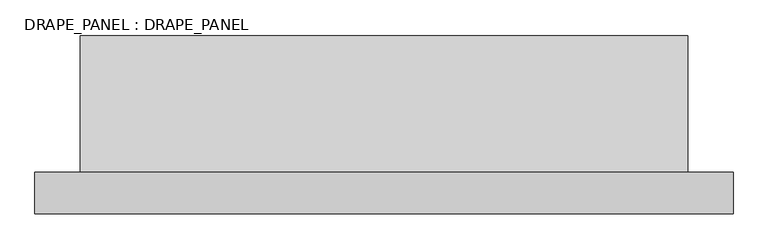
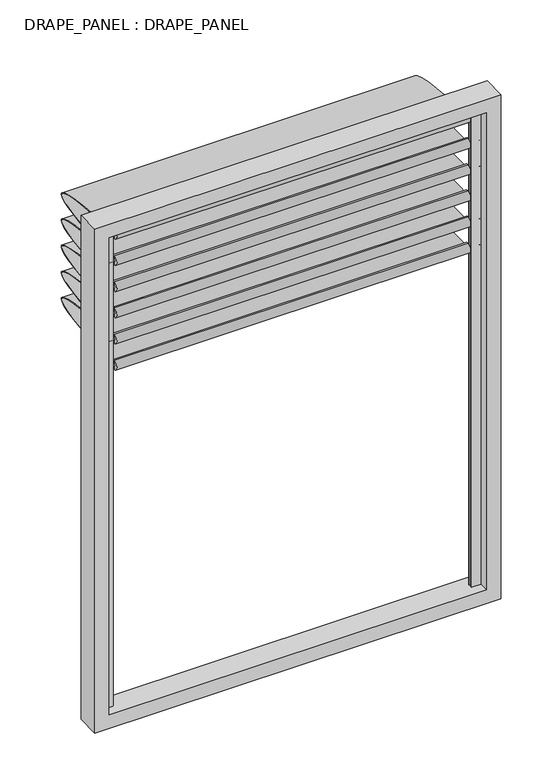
"""IFC4 building model written with IfcOpenShell, lengths in millimetres: plate geometry, DRAPE_PANEL : DRAPE_PANEL."""

from ifc_helpers import new_model, si_unit, point, frame, origin, place, context, project, spatial, polyline, circle_curve, ellipse_curve, trimmed, outline, extrude, source, transform, mapped, element, save
from ifc_brep_helpers import plane_surface, cylinder_surface, extruded_surface, advanced_brep


def drape_panel_drape_panel_741b7121(model_context):
    return source(origin(), model_context, "Body", "SolidModel", [
        advanced_brep(
        [(-790.0, 0.0, 1791.5019792), (-790.0, 0.0, 1796.5019792), (-790.0, 0.0, 1786.5019792), (790.0, 0.0, 1786.5019792), (790.0, 0.0, 1796.5019792), (790.0, 0.0, 1791.5019792), (740.0, 0.0, 1786.5019792), (740.0, 0.0, 1796.5019792), (740.0, 0.0, 1771.5019792), (740.0, 0.0, 1811.5019792), (-740.0, 0.0, 1771.5019792), (-740.0, 0.0, 1811.5019792), (-740.0, 0.0, 1786.5019792), (-740.0, 0.0, 1796.5019792)],
        [
            (0, 1),
            (1, 2, circle_curve(frame((-790.0, 0.0, 1791.5019792), z_axis=(-1.0, 0.0, 0.0), x_axis=(0.0, 0.0, 1.0)), 5.0)),
            (2, 0),
            (2, 1, circle_curve(frame((-790.0, 0.0, 1791.5019792), z_axis=(-1.0, 0.0, 0.0), x_axis=(0.0, 0.0, 1.0)), 5.0)),
            (3, 4, circle_curve(frame((790.0, 0.0, 1791.5019792), z_axis=(1.0, 0.0, 0.0), x_axis=(0.0, 0.0, 1.0)), 5.0)),
            (4, 5),
            (5, 3),
            (4, 3, circle_curve(frame((790.0, 0.0, 1791.5019792), z_axis=(1.0, 0.0, 0.0), x_axis=(0.0, 0.0, 1.0)), 5.0)),
            (6, 7, circle_curve(frame((740.0, 0.0, 1791.5019792), z_axis=(1.0, 0.0, 0.0), x_axis=(0.0, 0.0, 1.0)), 5.0)),
            (7, 4),
            (3, 6),
            (7, 6, circle_curve(frame((740.0, 0.0, 1791.5019792), z_axis=(1.0, 0.0, 0.0), x_axis=(0.0, 0.0, 1.0)), 5.0)),
            (8, 9, circle_curve(frame((740.0, 0.0, 1791.5019792), z_axis=(1.0, 0.0, 0.0), x_axis=(0.0, 0.0, 1.0)), 20.0)),
            (9, 7),
            (6, 8),
            (9, 8, circle_curve(frame((740.0, 0.0, 1791.5019792), z_axis=(1.0, 0.0, 0.0), x_axis=(0.0, 0.0, 1.0)), 20.0)),
            (10, 11, circle_curve(frame((-740.0, 0.0, 1791.5019792), z_axis=(1.0, 0.0, 0.0), x_axis=(0.0, 0.0, 1.0)), 20.0)),
            (11, 9),
            (8, 10),
            (11, 10, circle_curve(frame((-740.0, 0.0, 1791.5019792), z_axis=(1.0, 0.0, 0.0), x_axis=(0.0, 0.0, 1.0)), 20.0)),
            (12, 13, circle_curve(frame((-740.0, 0.0, 1791.5019792), z_axis=(1.0, 0.0, 0.0), x_axis=(0.0, 0.0, 1.0)), 5.0)),
            (13, 11),
            (10, 12),
            (13, 12, circle_curve(frame((-740.0, 0.0, 1791.5019792), z_axis=(1.0, 0.0, 0.0), x_axis=(0.0, 0.0, 1.0)), 5.0)),
            (1, 13),
            (12, 2),
        ],
        [
            plane_surface(frame((-790.0, 0.0, 1791.5019792), z_axis=(-1.0, 0.0, 0.0), x_axis=(0.0, 0.0, 1.0))),
            plane_surface(frame((790.0, 0.0, 1791.5019792), z_axis=(1.0, 0.0, 0.0), x_axis=(0.0, 0.0, 1.0))),
            cylinder_surface(frame((6238.8752301, 0.0, 1791.5019792), z_axis=(-1.0, 0.0, 0.0), x_axis=(0.0, 0.0, 1.0)), 5.0),
            plane_surface(frame((740.0, 0.0, 1791.5019792), z_axis=(1.0, 0.0, 0.0), x_axis=(0.0, 0.0, 1.0))),
            cylinder_surface(frame((6238.8752301, 0.0, 1791.5019792), z_axis=(-1.0, 0.0, 0.0), x_axis=(0.0, 0.0, 1.0)), 20.0),
            plane_surface(frame((-740.0, 0.0, 1791.5019792), z_axis=(-1.0, 0.0, 0.0), x_axis=(0.0, 0.0, 1.0))),
        ],
        [
            (0, [[1, 2, 3]]),
            (0, [[-3, 4, -1]]),
            (1, [[5, 6, 7]]),
            (1, [[8, -7, -6]]),
            (2, [[9, 10, -5, 11]]),
            (2, [[12, -11, -8, -10]]),
            (3, [[13, 14, -9, 15]]),
            (3, [[16, -15, -12, -14]]),
            (4, [[17, 18, -13, 19]]),
            (4, [[20, -19, -16, -18]]),
            (5, [[21, 22, -17, 23]]),
            (5, [[24, -23, -20, -22]]),
            (2, [[-2, 25, -21, 26]]),
            (2, [[-4, -26, -24, -25]]),
        ],
    ),
        advanced_brep(
        [(740.0, 0.0, 1791.5019792), (740.0, 0.0, 1788.5019792), (740.0, 0.0, 1678.7509896), (740.0, 0.0, 1675.7509896), (-740.0, 0.0, 1791.5019792), (-740.0, 0.0, 1675.7509896), (-740.0, 0.0, 1678.7509896), (-740.0, 0.0, 1788.5019792)],
        [
            (0, 1),
            (1, 2, ellipse_curve(frame((740.0, 0.0, 1733.6264844), z_axis=(-1.0, 0.0, 0.0), x_axis=(0.0, -1.0, 0.0)), 381.9935471, 54.8754948)),
            (2, 3),
            (3, 0, ellipse_curve(frame((740.0, 0.0, 1733.6264844), z_axis=(1.0, 0.0, 0.0), x_axis=(0.0, 1.0, 0.0)), 384.9935471, 57.8754948)),
            (4, 5, ellipse_curve(frame((-740.0, 0.0, 1733.6264844), z_axis=(-1.0, 0.0, 0.0), x_axis=(0.0, 0.0, -1.0)), 57.8754948, 384.9935471)),
            (5, 6),
            (6, 7, ellipse_curve(frame((-740.0, 0.0, 1733.6264844), z_axis=(1.0, 0.0, 0.0), x_axis=(0.0, 0.0, -1.0)), 54.8754948, 381.9935471)),
            (7, 4),
            (0, 4),
            (7, 1),
            (6, 2),
            (5, 3),
        ],
        [
            plane_surface(frame((740.0, 0.0, 1791.5019792), z_axis=(1.0, 0.0, 0.0), x_axis=(0.0, -2.950925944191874e-12, -1.0))),
            plane_surface(frame((-740.0, 0.0, 1791.5019792), z_axis=(-1.0, 0.0, 0.0), x_axis=(0.0, 2.950925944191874e-12, 1.0))),
            plane_surface(frame((740.0, 0.0, 1791.5019792), z_axis=(0.0, -1.0, 2.950925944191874e-12), x_axis=(-1.0, 0.0, 0.0))),
            extruded_surface(trimmed(ellipse_curve(frame((-2220.0, 0.0, 1733.6264844), z_axis=(-1.0, 0.0, 0.0), x_axis=(0.0, 0.0, -1.0)), 54.8754948, 381.9935471), [point((-2220.0, 0.0, 1788.5019792))], [point((-2220.0, 0.0, 1678.7509896))], True, "CARTESIAN"), (1480.0, 0.0, 0.0), 1480.0),
            plane_surface(frame((740.0, 0.0, 1678.7509896), z_axis=(0.0, -1.0, 0.0), x_axis=(-1.0, 0.0, 0.0))),
            extruded_surface(trimmed(ellipse_curve(frame((-2220.0, 0.0, 1733.6264844), z_axis=(1.0, 0.0, 0.0), x_axis=(0.0, 0.0, -1.0)), 57.8754948, 384.9935471), [point((-2220.0, 0.0, 1675.7509896))], [point((-2220.0, 0.0, 1791.5019792))], True, "CARTESIAN"), (1480.0, 0.0, 0.0), 1480.0),
        ],
        [
            (0, [[1, 2, 3, 4]]),
            (1, [[5, 6, 7, 8]]),
            (2, [[-1, 9, -8, 10]]),
            (3, [[-2, -10, -7, 11]]),
            (4, [[-3, -11, -6, 12]]),
            (5, [[-4, -12, -5, -9]]),
        ],
    ),
        advanced_brep(
        [(-790.0, 0.0, 1907.2529688), (-790.0, 0.0, 1912.2529688), (-790.0, 0.0, 1902.2529688), (790.0, 0.0, 1902.2529688), (790.0, 0.0, 1912.2529688), (790.0, 0.0, 1907.2529688), (740.0, 0.0, 1902.2529688), (740.0, 0.0, 1912.2529688), (740.0, 0.0, 1887.2529688), (740.0, 0.0, 1927.2529688), (-740.0, 0.0, 1887.2529688), (-740.0, 0.0, 1927.2529688), (-740.0, 0.0, 1902.2529688), (-740.0, 0.0, 1912.2529688)],
        [
            (0, 1),
            (1, 2, circle_curve(frame((-790.0, 0.0, 1907.2529688), z_axis=(-1.0, 0.0, 0.0), x_axis=(0.0, 0.0, 1.0)), 5.0)),
            (2, 0),
            (2, 1, circle_curve(frame((-790.0, 0.0, 1907.2529688), z_axis=(-1.0, 0.0, 0.0), x_axis=(0.0, 0.0, 1.0)), 5.0)),
            (3, 4, circle_curve(frame((790.0, 0.0, 1907.2529688), z_axis=(1.0, 0.0, 0.0), x_axis=(0.0, 0.0, 1.0)), 5.0)),
            (4, 5),
            (5, 3),
            (4, 3, circle_curve(frame((790.0, 0.0, 1907.2529688), z_axis=(1.0, 0.0, 0.0), x_axis=(0.0, 0.0, 1.0)), 5.0)),
            (6, 7, circle_curve(frame((740.0, 0.0, 1907.2529688), z_axis=(1.0, 0.0, 0.0), x_axis=(0.0, 0.0, 1.0)), 5.0)),
            (7, 4),
            (3, 6),
            (7, 6, circle_curve(frame((740.0, 0.0, 1907.2529688), z_axis=(1.0, 0.0, 0.0), x_axis=(0.0, 0.0, 1.0)), 5.0)),
            (8, 9, circle_curve(frame((740.0, 0.0, 1907.2529688), z_axis=(1.0, 0.0, 0.0), x_axis=(0.0, 0.0, 1.0)), 20.0)),
            (9, 7),
            (6, 8),
            (9, 8, circle_curve(frame((740.0, 0.0, 1907.2529688), z_axis=(1.0, 0.0, 0.0), x_axis=(0.0, 0.0, 1.0)), 20.0)),
            (10, 11, circle_curve(frame((-740.0, 0.0, 1907.2529688), z_axis=(1.0, 0.0, 0.0), x_axis=(0.0, 0.0, 1.0)), 20.0)),
            (11, 9),
            (8, 10),
            (11, 10, circle_curve(frame((-740.0, 0.0, 1907.2529688), z_axis=(1.0, 0.0, 0.0), x_axis=(0.0, 0.0, 1.0)), 20.0)),
            (12, 13, circle_curve(frame((-740.0, 0.0, 1907.2529688), z_axis=(1.0, 0.0, 0.0), x_axis=(0.0, 0.0, 1.0)), 5.0)),
            (13, 11),
            (10, 12),
            (13, 12, circle_curve(frame((-740.0, 0.0, 1907.2529688), z_axis=(1.0, 0.0, 0.0), x_axis=(0.0, 0.0, 1.0)), 5.0)),
            (1, 13),
            (12, 2),
        ],
        [
            plane_surface(frame((-790.0, 0.0, 1907.2529688), z_axis=(-1.0, 0.0, 0.0), x_axis=(0.0, 0.0, 1.0))),
            plane_surface(frame((790.0, 0.0, 1907.2529688), z_axis=(1.0, 0.0, 0.0), x_axis=(0.0, 0.0, 1.0))),
            cylinder_surface(frame((6238.8752301, 0.0, 1907.2529688), z_axis=(-1.0, 0.0, 0.0), x_axis=(0.0, 0.0, 1.0)), 5.0),
            plane_surface(frame((740.0, 0.0, 1907.2529688), z_axis=(1.0, 0.0, 0.0), x_axis=(0.0, 0.0, 1.0))),
            cylinder_surface(frame((6238.8752301, 0.0, 1907.2529688), z_axis=(-1.0, 0.0, 0.0), x_axis=(0.0, 0.0, 1.0)), 20.0),
            plane_surface(frame((-740.0, 0.0, 1907.2529688), z_axis=(-1.0, 0.0, 0.0), x_axis=(0.0, 0.0, 1.0))),
        ],
        [
            (0, [[1, 2, 3]]),
            (0, [[-3, 4, -1]]),
            (1, [[5, 6, 7]]),
            (1, [[8, -7, -6]]),
            (2, [[9, 10, -5, 11]]),
            (2, [[12, -11, -8, -10]]),
            (3, [[13, 14, -9, 15]]),
            (3, [[16, -15, -12, -14]]),
            (4, [[17, 18, -13, 19]]),
            (4, [[20, -19, -16, -18]]),
            (5, [[21, 22, -17, 23]]),
            (5, [[24, -23, -20, -22]]),
            (2, [[-2, 25, -21, 26]]),
            (2, [[-4, -26, -24, -25]]),
        ],
    ),
        advanced_brep(
        [(740.0, 0.0, 1907.2529688), (740.0, 0.0, 1904.2529688), (740.0, 0.0, 1794.5019792), (740.0, 0.0, 1791.5019792), (-740.0, 0.0, 1907.2529688), (-740.0, 0.0, 1791.5019792), (-740.0, 0.0, 1794.5019792), (-740.0, 0.0, 1904.2529688)],
        [
            (0, 1),
            (1, 2, ellipse_curve(frame((740.0, 0.0, 1849.377474), z_axis=(-1.0, 0.0, 0.0), x_axis=(0.0, -1.0, 0.0)), 381.9935471, 54.8754948)),
            (2, 3),
            (3, 0, ellipse_curve(frame((740.0, 0.0, 1849.377474), z_axis=(1.0, 0.0, 0.0), x_axis=(0.0, 1.0, 0.0)), 384.9935471, 57.8754948)),
            (4, 5, ellipse_curve(frame((-740.0, 0.0, 1849.377474), z_axis=(-1.0, 0.0, 0.0), x_axis=(0.0, 0.0, -1.0)), 57.8754948, 384.9935471)),
            (5, 6),
            (6, 7, ellipse_curve(frame((-740.0, 0.0, 1849.377474), z_axis=(1.0, 0.0, 0.0), x_axis=(0.0, 0.0, -1.0)), 54.8754948, 381.9935471)),
            (7, 4),
            (0, 4),
            (7, 1),
            (6, 2),
            (5, 3),
        ],
        [
            plane_surface(frame((740.0, 0.0, 1907.2529688), z_axis=(1.0, 0.0, 0.0), x_axis=(0.0, -2.950925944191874e-12, -1.0))),
            plane_surface(frame((-740.0, 0.0, 1907.2529688), z_axis=(-1.0, 0.0, 0.0), x_axis=(0.0, 2.950925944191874e-12, 1.0))),
            plane_surface(frame((740.0, 0.0, 1907.2529688), z_axis=(0.0, -1.0, 2.950925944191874e-12), x_axis=(-1.0, 0.0, 0.0))),
            extruded_surface(trimmed(ellipse_curve(frame((-2220.0, 0.0, 1849.377474), z_axis=(-1.0, 0.0, 0.0), x_axis=(0.0, 0.0, -1.0)), 54.8754948, 381.9935471), [point((-2220.0, 0.0, 1904.2529688))], [point((-2220.0, 0.0, 1794.5019792))], True, "CARTESIAN"), (1480.0, 0.0, 0.0), 1480.0),
            plane_surface(frame((740.0, 0.0, 1794.5019792), z_axis=(0.0, -1.0, 0.0), x_axis=(-1.0, 0.0, 0.0))),
            extruded_surface(trimmed(ellipse_curve(frame((-2220.0, 0.0, 1849.377474), z_axis=(1.0, 0.0, 0.0), x_axis=(0.0, 0.0, -1.0)), 57.8754948, 384.9935471), [point((-2220.0, 0.0, 1791.5019792))], [point((-2220.0, 0.0, 1907.2529688))], True, "CARTESIAN"), (1480.0, 0.0, 0.0), 1480.0),
        ],
        [
            (0, [[1, 2, 3, 4]]),
            (1, [[5, 6, 7, 8]]),
            (2, [[-1, 9, -8, 10]]),
            (3, [[-2, -10, -7, 11]]),
            (4, [[-3, -11, -6, 12]]),
            (5, [[-4, -12, -5, -9]]),
        ],
    ),
        advanced_brep(
        [(-790.0, 0.0, 2023.0039583), (-790.0, 0.0, 2028.0039583), (-790.0, 0.0, 2018.0039583), (790.0, 0.0, 2018.0039583), (790.0, 0.0, 2028.0039583), (790.0, 0.0, 2023.0039583), (740.0, 0.0, 2018.0039583), (740.0, 0.0, 2028.0039583), (740.0, 0.0, 2003.0039583), (740.0, 0.0, 2043.0039583), (-740.0, 0.0, 2003.0039583), (-740.0, 0.0, 2043.0039583), (-740.0, 0.0, 2018.0039583), (-740.0, 0.0, 2028.0039583)],
        [
            (0, 1),
            (1, 2, circle_curve(frame((-790.0, 0.0, 2023.0039583), z_axis=(-1.0, 0.0, 0.0), x_axis=(0.0, 0.0, 1.0)), 5.0)),
            (2, 0),
            (2, 1, circle_curve(frame((-790.0, 0.0, 2023.0039583), z_axis=(-1.0, 0.0, 0.0), x_axis=(0.0, 0.0, 1.0)), 5.0)),
            (3, 4, circle_curve(frame((790.0, 0.0, 2023.0039583), z_axis=(1.0, 0.0, 0.0), x_axis=(0.0, 0.0, 1.0)), 5.0)),
            (4, 5),
            (5, 3),
            (4, 3, circle_curve(frame((790.0, 0.0, 2023.0039583), z_axis=(1.0, 0.0, 0.0), x_axis=(0.0, 0.0, 1.0)), 5.0)),
            (6, 7, circle_curve(frame((740.0, 0.0, 2023.0039583), z_axis=(1.0, 0.0, 0.0), x_axis=(0.0, 0.0, 1.0)), 5.0)),
            (7, 4),
            (3, 6),
            (7, 6, circle_curve(frame((740.0, 0.0, 2023.0039583), z_axis=(1.0, 0.0, 0.0), x_axis=(0.0, 0.0, 1.0)), 5.0)),
            (8, 9, circle_curve(frame((740.0, 0.0, 2023.0039583), z_axis=(1.0, 0.0, 0.0), x_axis=(0.0, 0.0, 1.0)), 20.0)),
            (9, 7),
            (6, 8),
            (9, 8, circle_curve(frame((740.0, 0.0, 2023.0039583), z_axis=(1.0, 0.0, 0.0), x_axis=(0.0, 0.0, 1.0)), 20.0)),
            (10, 11, circle_curve(frame((-740.0, 0.0, 2023.0039583), z_axis=(1.0, 0.0, 0.0), x_axis=(0.0, 0.0, 1.0)), 20.0)),
            (11, 9),
            (8, 10),
            (11, 10, circle_curve(frame((-740.0, 0.0, 2023.0039583), z_axis=(1.0, 0.0, 0.0), x_axis=(0.0, 0.0, 1.0)), 20.0)),
            (12, 13, circle_curve(frame((-740.0, 0.0, 2023.0039583), z_axis=(1.0, 0.0, 0.0), x_axis=(0.0, 0.0, 1.0)), 5.0)),
            (13, 11),
            (10, 12),
            (13, 12, circle_curve(frame((-740.0, 0.0, 2023.0039583), z_axis=(1.0, 0.0, 0.0), x_axis=(0.0, 0.0, 1.0)), 5.0)),
            (1, 13),
            (12, 2),
        ],
        [
            plane_surface(frame((-790.0, 0.0, 2023.0039583), z_axis=(-1.0, 0.0, 0.0), x_axis=(0.0, 0.0, 1.0))),
            plane_surface(frame((790.0, 0.0, 2023.0039583), z_axis=(1.0, 0.0, 0.0), x_axis=(0.0, 0.0, 1.0))),
            cylinder_surface(frame((6238.8752301, 0.0, 2023.0039583), z_axis=(-1.0, 0.0, 0.0), x_axis=(0.0, 0.0, 1.0)), 5.0),
            plane_surface(frame((740.0, 0.0, 2023.0039583), z_axis=(1.0, 0.0, 0.0), x_axis=(0.0, 0.0, 1.0))),
            cylinder_surface(frame((6238.8752301, 0.0, 2023.0039583), z_axis=(-1.0, 0.0, 0.0), x_axis=(0.0, 0.0, 1.0)), 20.0),
            plane_surface(frame((-740.0, 0.0, 2023.0039583), z_axis=(-1.0, 0.0, 0.0), x_axis=(0.0, 0.0, 1.0))),
        ],
        [
            (0, [[1, 2, 3]]),
            (0, [[-3, 4, -1]]),
            (1, [[5, 6, 7]]),
            (1, [[8, -7, -6]]),
            (2, [[9, 10, -5, 11]]),
            (2, [[12, -11, -8, -10]]),
            (3, [[13, 14, -9, 15]]),
            (3, [[16, -15, -12, -14]]),
            (4, [[17, 18, -13, 19]]),
            (4, [[20, -19, -16, -18]]),
            (5, [[21, 22, -17, 23]]),
            (5, [[24, -23, -20, -22]]),
            (2, [[-2, 25, -21, 26]]),
            (2, [[-4, -26, -24, -25]]),
        ],
    ),
        advanced_brep(
        [(740.0, 0.0, 2023.0039583), (740.0, 0.0, 2020.0039583), (740.0, 0.0, 1910.2529688), (740.0, 0.0, 1907.2529688), (-740.0, 0.0, 2023.0039583), (-740.0, 0.0, 1907.2529688), (-740.0, 0.0, 1910.2529688), (-740.0, 0.0, 2020.0039583)],
        [
            (0, 1),
            (1, 2, ellipse_curve(frame((740.0, 0.0, 1965.1284635), z_axis=(-1.0, 0.0, 0.0), x_axis=(0.0, -1.0, 0.0)), 381.9935471, 54.8754948)),
            (2, 3),
            (3, 0, ellipse_curve(frame((740.0, 0.0, 1965.1284635), z_axis=(1.0, 0.0, 0.0), x_axis=(0.0, 1.0, 0.0)), 384.9935471, 57.8754948)),
            (4, 5, ellipse_curve(frame((-740.0, 0.0, 1965.1284635), z_axis=(-1.0, 0.0, 0.0), x_axis=(0.0, 0.0, -1.0)), 57.8754948, 384.9935471)),
            (5, 6),
            (6, 7, ellipse_curve(frame((-740.0, 0.0, 1965.1284635), z_axis=(1.0, 0.0, 0.0), x_axis=(0.0, 0.0, -1.0)), 54.8754948, 381.9935471)),
            (7, 4),
            (0, 4),
            (7, 1),
            (6, 2),
            (5, 3),
        ],
        [
            plane_surface(frame((740.0, 0.0, 2023.0039583), z_axis=(1.0, 0.0, 0.0), x_axis=(0.0, -2.950925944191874e-12, -1.0))),
            plane_surface(frame((-740.0, 0.0, 2023.0039583), z_axis=(-1.0, 0.0, 0.0), x_axis=(0.0, 2.950925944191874e-12, 1.0))),
            plane_surface(frame((740.0, 0.0, 2023.0039583), z_axis=(0.0, -1.0, 2.950925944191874e-12), x_axis=(-1.0, 0.0, 0.0))),
            extruded_surface(trimmed(ellipse_curve(frame((-2220.0, 0.0, 1965.1284635), z_axis=(-1.0, 0.0, 0.0), x_axis=(0.0, 0.0, -1.0)), 54.8754948, 381.9935471), [point((-2220.0, 0.0, 2020.0039583))], [point((-2220.0, 0.0, 1910.2529687))], True, "CARTESIAN"), (1480.0, 0.0, 0.0), 1480.0),
            plane_surface(frame((740.0, 0.0, 1910.2529688), z_axis=(0.0, -1.0, 0.0), x_axis=(-1.0, 0.0, 0.0))),
            extruded_surface(trimmed(ellipse_curve(frame((-2220.0, 0.0, 1965.1284635), z_axis=(1.0, 0.0, 0.0), x_axis=(0.0, 0.0, -1.0)), 57.8754948, 384.9935471), [point((-2220.0, 0.0, 1907.2529688))], [point((-2220.0, 0.0, 2023.0039583))], True, "CARTESIAN"), (1480.0, 0.0, 0.0), 1480.0),
        ],
        [
            (0, [[1, 2, 3, 4]]),
            (1, [[5, 6, 7, 8]]),
            (2, [[-1, 9, -8, 10]]),
            (3, [[-2, -10, -7, 11]]),
            (4, [[-3, -11, -6, 12]]),
            (5, [[-4, -12, -5, -9]]),
        ],
    ),
        advanced_brep(
        [(-790.0, 0.0, 1675.7509896), (-790.0, 0.0, 1680.7509896), (-790.0, 0.0, 1670.7509896), (790.0, 0.0, 1670.7509896), (790.0, 0.0, 1680.7509896), (790.0, 0.0, 1675.7509896), (740.0, 0.0, 1670.7509896), (740.0, 0.0, 1680.7509896), (740.0, 0.0, 1655.7509896), (740.0, 0.0, 1695.7509896), (-740.0, 0.0, 1655.7509896), (-740.0, 0.0, 1695.7509896), (-740.0, 0.0, 1670.7509896), (-740.0, 0.0, 1680.7509896)],
        [
            (0, 1),
            (1, 2, circle_curve(frame((-790.0, 0.0, 1675.7509896), z_axis=(-1.0, 0.0, 0.0), x_axis=(0.0, 0.0, 1.0)), 5.0)),
            (2, 0),
            (2, 1, circle_curve(frame((-790.0, 0.0, 1675.7509896), z_axis=(-1.0, 0.0, 0.0), x_axis=(0.0, 0.0, 1.0)), 5.0)),
            (3, 4, circle_curve(frame((790.0, 0.0, 1675.7509896), z_axis=(1.0, 0.0, 0.0), x_axis=(0.0, 0.0, 1.0)), 5.0)),
            (4, 5),
            (5, 3),
            (4, 3, circle_curve(frame((790.0, 0.0, 1675.7509896), z_axis=(1.0, 0.0, 0.0), x_axis=(0.0, 0.0, 1.0)), 5.0)),
            (6, 7, circle_curve(frame((740.0, 0.0, 1675.7509896), z_axis=(1.0, 0.0, 0.0), x_axis=(0.0, 0.0, 1.0)), 5.0)),
            (7, 4),
            (3, 6),
            (7, 6, circle_curve(frame((740.0, 0.0, 1675.7509896), z_axis=(1.0, 0.0, 0.0), x_axis=(0.0, 0.0, 1.0)), 5.0)),
            (8, 9, circle_curve(frame((740.0, 0.0, 1675.7509896), z_axis=(1.0, 0.0, 0.0), x_axis=(0.0, 0.0, 1.0)), 20.0)),
            (9, 7),
            (6, 8),
            (9, 8, circle_curve(frame((740.0, 0.0, 1675.7509896), z_axis=(1.0, 0.0, 0.0), x_axis=(0.0, 0.0, 1.0)), 20.0)),
            (10, 11, circle_curve(frame((-740.0, 0.0, 1675.7509896), z_axis=(1.0, 0.0, 0.0), x_axis=(0.0, 0.0, 1.0)), 20.0)),
            (11, 9),
            (8, 10),
            (11, 10, circle_curve(frame((-740.0, 0.0, 1675.7509896), z_axis=(1.0, 0.0, 0.0), x_axis=(0.0, 0.0, 1.0)), 20.0)),
            (12, 13, circle_curve(frame((-740.0, 0.0, 1675.7509896), z_axis=(1.0, 0.0, 0.0), x_axis=(0.0, 0.0, 1.0)), 5.0)),
            (13, 11),
            (10, 12),
            (13, 12, circle_curve(frame((-740.0, 0.0, 1675.7509896), z_axis=(1.0, 0.0, 0.0), x_axis=(0.0, 0.0, 1.0)), 5.0)),
            (1, 13),
            (12, 2),
        ],
        [
            plane_surface(frame((-790.0, 0.0, 1675.7509896), z_axis=(-1.0, 0.0, 0.0), x_axis=(0.0, 0.0, 1.0))),
            plane_surface(frame((790.0, 0.0, 1675.7509896), z_axis=(1.0, 0.0, 0.0), x_axis=(0.0, 0.0, 1.0))),
            cylinder_surface(frame((6238.8752301, 0.0, 1675.7509896), z_axis=(-1.0, 0.0, 0.0), x_axis=(0.0, 0.0, 1.0)), 5.0),
            plane_surface(frame((740.0, 0.0, 1675.7509896), z_axis=(1.0, 0.0, 0.0), x_axis=(0.0, 0.0, 1.0))),
            cylinder_surface(frame((6238.8752301, 0.0, 1675.7509896), z_axis=(-1.0, 0.0, 0.0), x_axis=(0.0, 0.0, 1.0)), 20.0),
            plane_surface(frame((-740.0, 0.0, 1675.7509896), z_axis=(-1.0, 0.0, 0.0), x_axis=(0.0, 0.0, 1.0))),
        ],
        [
            (0, [[1, 2, 3]]),
            (0, [[-3, 4, -1]]),
            (1, [[5, 6, 7]]),
            (1, [[8, -7, -6]]),
            (2, [[9, 10, -5, 11]]),
            (2, [[12, -11, -8, -10]]),
            (3, [[13, 14, -9, 15]]),
            (3, [[16, -15, -12, -14]]),
            (4, [[17, 18, -13, 19]]),
            (4, [[20, -19, -16, -18]]),
            (5, [[21, 22, -17, 23]]),
            (5, [[24, -23, -20, -22]]),
            (2, [[-2, 25, -21, 26]]),
            (2, [[-4, -26, -24, -25]]),
        ],
    ),
        advanced_brep(
        [(740.0, 0.0, 1675.7509896), (740.0, 0.0, 1672.7509896), (740.0, 0.0, 1563.0), (740.0, 0.0, 1560.0), (-740.0, 0.0, 1675.7509896), (-740.0, 0.0, 1560.0), (-740.0, 0.0, 1563.0), (-740.0, 0.0, 1672.7509896)],
        [
            (0, 1),
            (1, 2, ellipse_curve(frame((740.0, 0.0, 1617.8754948), z_axis=(-1.0, 0.0, 0.0), x_axis=(0.0, -1.0, 0.0)), 381.9935471, 54.8754948)),
            (2, 3),
            (3, 0, ellipse_curve(frame((740.0, 0.0, 1617.8754948), z_axis=(1.0, 0.0, 0.0), x_axis=(0.0, 1.0, 0.0)), 384.9935471, 57.8754948)),
            (4, 5, ellipse_curve(frame((-740.0, 0.0, 1617.8754948), z_axis=(-1.0, 0.0, 0.0), x_axis=(0.0, 0.0, -1.0)), 57.8754948, 384.9935471)),
            (5, 6),
            (6, 7, ellipse_curve(frame((-740.0, 0.0, 1617.8754948), z_axis=(1.0, 0.0, 0.0), x_axis=(0.0, 0.0, -1.0)), 54.8754948, 381.9935471)),
            (7, 4),
            (0, 4),
            (7, 1),
            (6, 2),
            (5, 3),
        ],
        [
            plane_surface(frame((740.0, 0.0, 1675.7509896), z_axis=(1.0, 0.0, 0.0), x_axis=(0.0, -2.950925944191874e-12, -1.0))),
            plane_surface(frame((-740.0, 0.0, 1675.7509896), z_axis=(-1.0, 0.0, 0.0), x_axis=(0.0, 2.950925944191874e-12, 1.0))),
            plane_surface(frame((740.0, 0.0, 1675.7509896), z_axis=(0.0, -1.0, 2.950925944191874e-12), x_axis=(-1.0, 0.0, 0.0))),
            extruded_surface(trimmed(ellipse_curve(frame((-2220.0, 0.0, 1617.8754948), z_axis=(-1.0, 0.0, 0.0), x_axis=(0.0, 0.0, -1.0)), 54.8754948, 381.9935471), [point((-2220.0, 0.0, 1672.7509896))], [point((-2220.0, 0.0, 1563.0))], True, "CARTESIAN"), (1480.0, 0.0, 0.0), 1480.0),
            plane_surface(frame((740.0, 0.0, 1563.0), z_axis=(0.0, -1.0, 0.0), x_axis=(-1.0, 0.0, 0.0))),
            extruded_surface(trimmed(ellipse_curve(frame((-2220.0, 0.0, 1617.8754948), z_axis=(1.0, 0.0, 0.0), x_axis=(0.0, 0.0, -1.0)), 57.8754948, 384.9935471), [point((-2220.0, 0.0, 1560.0))], [point((-2220.0, 0.0, 1675.7509896))], True, "CARTESIAN"), (1480.0, 0.0, 0.0), 1480.0),
        ],
        [
            (0, [[1, 2, 3, 4]]),
            (1, [[5, 6, 7, 8]]),
            (2, [[-1, 9, -8, 10]]),
            (3, [[-2, -10, -7, 11]]),
            (4, [[-3, -11, -6, 12]]),
            (5, [[-4, -12, -5, -9]]),
        ],
    ),
        advanced_brep(
        [(-790.0, 0.0, 2138.7549479), (-790.0, 0.0, 2143.7549479), (-790.0, 0.0, 2133.7549479), (790.0, 0.0, 2133.7549479), (790.0, 0.0, 2143.7549479), (790.0, 0.0, 2138.7549479), (740.0, 0.0, 2133.7549479), (740.0, 0.0, 2143.7549479), (740.0, 0.0, 2118.7549479), (740.0, 0.0, 2158.7549479), (-740.0, 0.0, 2118.7549479), (-740.0, 0.0, 2158.7549479), (-740.0, 0.0, 2133.7549479), (-740.0, 0.0, 2143.7549479)],
        [
            (0, 1),
            (1, 2, circle_curve(frame((-790.0, 0.0, 2138.7549479), z_axis=(-1.0, 0.0, 0.0), x_axis=(0.0, 0.0, 1.0)), 5.0)),
            (2, 0),
            (2, 1, circle_curve(frame((-790.0, 0.0, 2138.7549479), z_axis=(-1.0, 0.0, 0.0), x_axis=(0.0, 0.0, 1.0)), 5.0)),
            (3, 4, circle_curve(frame((790.0, 0.0, 2138.7549479), z_axis=(1.0, 0.0, 0.0), x_axis=(0.0, 0.0, 1.0)), 5.0)),
            (4, 5),
            (5, 3),
            (4, 3, circle_curve(frame((790.0, 0.0, 2138.7549479), z_axis=(1.0, 0.0, 0.0), x_axis=(0.0, 0.0, 1.0)), 5.0)),
            (6, 7, circle_curve(frame((740.0, 0.0, 2138.7549479), z_axis=(1.0, 0.0, 0.0), x_axis=(0.0, 0.0, 1.0)), 5.0)),
            (7, 4),
            (3, 6),
            (7, 6, circle_curve(frame((740.0, 0.0, 2138.7549479), z_axis=(1.0, 0.0, 0.0), x_axis=(0.0, 0.0, 1.0)), 5.0)),
            (8, 9, circle_curve(frame((740.0, 0.0, 2138.7549479), z_axis=(1.0, 0.0, 0.0), x_axis=(0.0, 0.0, 1.0)), 20.0)),
            (9, 7),
            (6, 8),
            (9, 8, circle_curve(frame((740.0, 0.0, 2138.7549479), z_axis=(1.0, 0.0, 0.0), x_axis=(0.0, 0.0, 1.0)), 20.0)),
            (10, 11, circle_curve(frame((-740.0, 0.0, 2138.7549479), z_axis=(1.0, 0.0, 0.0), x_axis=(0.0, 0.0, 1.0)), 20.0)),
            (11, 9),
            (8, 10),
            (11, 10, circle_curve(frame((-740.0, 0.0, 2138.7549479), z_axis=(1.0, 0.0, 0.0), x_axis=(0.0, 0.0, 1.0)), 20.0)),
            (12, 13, circle_curve(frame((-740.0, 0.0, 2138.7549479), z_axis=(1.0, 0.0, 0.0), x_axis=(0.0, 0.0, 1.0)), 5.0)),
            (13, 11),
            (10, 12),
            (13, 12, circle_curve(frame((-740.0, 0.0, 2138.7549479), z_axis=(1.0, 0.0, 0.0), x_axis=(0.0, 0.0, 1.0)), 5.0)),
            (1, 13),
            (12, 2),
        ],
        [
            plane_surface(frame((-790.0, 0.0, 2138.7549479), z_axis=(-1.0, 0.0, 0.0), x_axis=(0.0, 0.0, 1.0))),
            plane_surface(frame((790.0, 0.0, 2138.7549479), z_axis=(1.0, 0.0, 0.0), x_axis=(0.0, 0.0, 1.0))),
            cylinder_surface(frame((6238.8752301, 0.0, 2138.7549479), z_axis=(-1.0, 0.0, 0.0), x_axis=(0.0, 0.0, 1.0)), 5.0),
            plane_surface(frame((740.0, 0.0, 2138.7549479), z_axis=(1.0, 0.0, 0.0), x_axis=(0.0, 0.0, 1.0))),
            cylinder_surface(frame((6238.8752301, 0.0, 2138.7549479), z_axis=(-1.0, 0.0, 0.0), x_axis=(0.0, 0.0, 1.0)), 20.0),
            plane_surface(frame((-740.0, 0.0, 2138.7549479), z_axis=(-1.0, 0.0, 0.0), x_axis=(0.0, 0.0, 1.0))),
        ],
        [
            (0, [[1, 2, 3]]),
            (0, [[-3, 4, -1]]),
            (1, [[5, 6, 7]]),
            (1, [[8, -7, -6]]),
            (2, [[9, 10, -5, 11]]),
            (2, [[12, -11, -8, -10]]),
            (3, [[13, 14, -9, 15]]),
            (3, [[16, -15, -12, -14]]),
            (4, [[17, 18, -13, 19]]),
            (4, [[20, -19, -16, -18]]),
            (5, [[21, 22, -17, 23]]),
            (5, [[24, -23, -20, -22]]),
            (2, [[-2, 25, -21, 26]]),
            (2, [[-4, -26, -24, -25]]),
        ],
    ),
        advanced_brep(
        [(740.0, 0.0, 2138.7549479), (740.0, 0.0, 2135.7549479), (740.0, 0.0, 2026.0039583), (740.0, 0.0, 2023.0039583), (-740.0, 0.0, 2138.7549479), (-740.0, 0.0, 2023.0039583), (-740.0, 0.0, 2026.0039583), (-740.0, 0.0, 2135.7549479)],
        [
            (0, 1),
            (1, 2, ellipse_curve(frame((740.0, 0.0, 2080.8794531), z_axis=(-1.0, 0.0, 0.0), x_axis=(0.0, -1.0, 0.0)), 381.9935471, 54.8754948)),
            (2, 3),
            (3, 0, ellipse_curve(frame((740.0, 0.0, 2080.8794531), z_axis=(1.0, 0.0, 0.0), x_axis=(0.0, 1.0, 0.0)), 384.9935471, 57.8754948)),
            (4, 5, ellipse_curve(frame((-740.0, 0.0, 2080.8794531), z_axis=(-1.0, 0.0, 0.0), x_axis=(0.0, 0.0, -1.0)), 57.8754948, 384.9935471)),
            (5, 6),
            (6, 7, ellipse_curve(frame((-740.0, 0.0, 2080.8794531), z_axis=(1.0, 0.0, 0.0), x_axis=(0.0, 0.0, -1.0)), 54.8754948, 381.9935471)),
            (7, 4),
            (0, 4),
            (7, 1),
            (6, 2),
            (5, 3),
        ],
        [
            plane_surface(frame((740.0, 0.0, 2138.7549479), z_axis=(1.0, 0.0, 0.0), x_axis=(0.0, -2.950925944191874e-12, -1.0))),
            plane_surface(frame((-740.0, 0.0, 2138.7549479), z_axis=(-1.0, 0.0, 0.0), x_axis=(0.0, 2.950925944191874e-12, 1.0))),
            plane_surface(frame((740.0, 0.0, 2138.7549479), z_axis=(0.0, -1.0, 2.950925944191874e-12), x_axis=(-1.0, 0.0, 0.0))),
            extruded_surface(trimmed(ellipse_curve(frame((-2220.0, 0.0, 2080.8794531), z_axis=(-1.0, 0.0, 0.0), x_axis=(0.0, 0.0, -1.0)), 54.8754948, 381.9935471), [point((-2220.0, 0.0, 2135.7549479))], [point((-2220.0, 0.0, 2026.0039583))], True, "CARTESIAN"), (1480.0, 0.0, 0.0), 1480.0),
            plane_surface(frame((740.0, 0.0, 2026.0039583), z_axis=(0.0, -1.0, 0.0), x_axis=(-1.0, 0.0, 0.0))),
            extruded_surface(trimmed(ellipse_curve(frame((-2220.0, 0.0, 2080.8794531), z_axis=(1.0, 0.0, 0.0), x_axis=(0.0, 0.0, -1.0)), 57.8754948, 384.9935471), [point((-2220.0, 0.0, 2023.0039583))], [point((-2220.0, 0.0, 2138.7549479))], True, "CARTESIAN"), (1480.0, 0.0, 0.0), 1480.0),
        ],
        [
            (0, [[1, 2, 3, 4]]),
            (1, [[5, 6, 7, 8]]),
            (2, [[-1, 9, -8, 10]]),
            (3, [[-2, -10, -7, 11]]),
            (4, [[-3, -11, -6, 12]]),
            (5, [[-4, -12, -5, -9]]),
        ],
    ),
        extrude(outline(polyline([(750.0, 5.0), (750.0, 10.0), (790.0, 10.0), (790.0, -10.0), (750.0, -10.0), (750.0, -5.0), (785.0, -5.0), (785.0, 5.0), (750.0, 5.0)])), frame((0.0, 0.0, 60.0), z_axis=(0.0, 0.0, 1.0), x_axis=(1.0, 0.0, 0.0)), (0.0, 0.0, 1.0), 2108.7549479),
        extrude(outline(polyline([(-750.0, 5.0), (-785.0, 5.0), (-785.0, -5.0), (-750.0, -5.0), (-750.0, -10.0), (-790.0, -10.0), (-790.0, 10.0), (-750.0, 10.0), (-750.0, 5.0)])), frame((0.0, 0.0, 60.0), z_axis=(0.0, 0.0, 1.0), x_axis=(1.0, 0.0, 0.0)), (0.0, 0.0, 1.0), 2108.7549479),
        advanced_brep(
        [(740.0, 0.0, 1555.0), (740.0, 0.0, 1565.0), (790.0, 0.0, 1565.0), (790.0, 0.0, 1555.0), (740.0, 0.0, 1540.0), (740.0, 0.0, 1580.0), (-740.0, 0.0, 1540.0), (-740.0, 0.0, 1580.0), (-740.0, 0.0, 1555.0), (-740.0, 0.0, 1565.0), (-790.0, 0.0, 1555.0), (-790.0, 0.0, 1565.0), (-790.0, 0.0, 1560.0), (790.0, 0.0, 1560.0)],
        [
            (0, 1, circle_curve(frame((740.0, 0.0, 1560.0), z_axis=(1.0, 0.0, 0.0), x_axis=(0.0, 0.0, 1.0)), 5.0)),
            (1, 2),
            (2, 3, circle_curve(frame((790.0, 0.0, 1560.0), z_axis=(-1.0, 0.0, 0.0), x_axis=(0.0, 0.0, 1.0)), 5.0)),
            (3, 0),
            (1, 0, circle_curve(frame((740.0, 0.0, 1560.0), z_axis=(1.0, 0.0, 0.0), x_axis=(0.0, 0.0, 1.0)), 5.0)),
            (3, 2, circle_curve(frame((790.0, 0.0, 1560.0), z_axis=(-1.0, 0.0, 0.0), x_axis=(0.0, 0.0, 1.0)), 5.0)),
            (4, 5, circle_curve(frame((740.0, 0.0, 1560.0), z_axis=(1.0, 0.0, 0.0), x_axis=(0.0, 0.0, 1.0)), 20.0)),
            (5, 1),
            (0, 4),
            (5, 4, circle_curve(frame((740.0, 0.0, 1560.0), z_axis=(1.0, 0.0, 0.0), x_axis=(0.0, 0.0, 1.0)), 20.0)),
            (6, 7, circle_curve(frame((-740.0, 0.0, 1560.0), z_axis=(1.0, 0.0, 0.0), x_axis=(0.0, 0.0, 1.0)), 20.0)),
            (7, 5),
            (4, 6),
            (7, 6, circle_curve(frame((-740.0, 0.0, 1560.0), z_axis=(1.0, 0.0, 0.0), x_axis=(0.0, 0.0, 1.0)), 20.0)),
            (8, 9, circle_curve(frame((-740.0, 0.0, 1560.0), z_axis=(1.0, 0.0, 0.0), x_axis=(0.0, 0.0, 1.0)), 5.0)),
            (9, 7),
            (6, 8),
            (9, 8, circle_curve(frame((-740.0, 0.0, 1560.0), z_axis=(1.0, 0.0, 0.0), x_axis=(0.0, 0.0, 1.0)), 5.0)),
            (10, 11, circle_curve(frame((-790.0, 0.0, 1560.0), z_axis=(1.0, 0.0, 0.0), x_axis=(0.0, 0.0, 1.0)), 5.0)),
            (11, 9),
            (8, 10),
            (11, 10, circle_curve(frame((-790.0, 0.0, 1560.0), z_axis=(1.0, 0.0, 0.0), x_axis=(0.0, 0.0, 1.0)), 5.0)),
            (12, 11),
            (10, 12),
            (2, 13),
            (13, 3),
        ],
        [
            cylinder_surface(frame((9550.0, 0.0, 1560.0), z_axis=(-1.0, 0.0, 0.0), x_axis=(0.0, 0.0, 1.0)), 5.0),
            plane_surface(frame((740.0, 0.0, 1560.0), z_axis=(1.0, 0.0, 0.0), x_axis=(0.0, 0.0, 1.0))),
            cylinder_surface(frame((9550.0, 0.0, 1560.0), z_axis=(-1.0, 0.0, 0.0), x_axis=(0.0, 0.0, 1.0)), 20.0),
            plane_surface(frame((-740.0, 0.0, 1560.0), z_axis=(-1.0, 0.0, 0.0), x_axis=(0.0, 0.0, 1.0))),
            plane_surface(frame((-790.0, 0.0, 1560.0), z_axis=(-1.0, 0.0, 0.0), x_axis=(0.0, 0.0, 1.0))),
            plane_surface(frame((790.0, 0.0, 1560.0), z_axis=(1.0, 0.0, 0.0), x_axis=(0.0, 0.0, 1.0))),
        ],
        [
            (0, [[1, 2, 3, 4]]),
            (0, [[5, -4, 6, -2]]),
            (1, [[7, 8, -1, 9]]),
            (1, [[10, -9, -5, -8]]),
            (2, [[11, 12, -7, 13]]),
            (2, [[14, -13, -10, -12]]),
            (3, [[15, 16, -11, 17]]),
            (3, [[18, -17, -14, -16]]),
            (0, [[19, 20, -15, 21]]),
            (0, [[22, -21, -18, -20]]),
            (4, [[23, -19, 24]]),
            (4, [[-24, -22, -23]]),
            (5, [[-3, 25, 26]]),
            (5, [[-6, -26, -25]]),
        ],
    ),
        extrude(outline(polyline([(2228.7549479, -850.0), (0.0, -850.0), (0.0, 850.0), (2228.7549479, 850.0), (2228.7549479, -850.0)]), holes=[polyline([(2168.7549479, -790.0), (2168.7549479, 790.0), (60.0, 790.0), (60.0, -790.0), (2168.7549479, -790.0)])]), frame((0.0, -50.0, 0.0), z_axis=(0.0, 1.0, 0.0), x_axis=(0.0, 0.0, 1.0)), (0.0, 0.0, 1.0), 100.0),
    ])


if __name__ == "__main__":
    model = new_model("IFC4")
    model_context = context("Model", 3, world=origin())
    ifc_project = project(units=[si_unit("LENGTHUNIT", "METRE", prefix="MILLI")], contexts=[model_context])
    site = spatial("IfcSite", under=ifc_project)
    building = spatial("IfcBuilding", under=site)
    placement = place(None, origin())
    drape_panel_drape_panel_shape = drape_panel_drape_panel_741b7121(model_context)
    element("IfcPlate", 1, ObjectType="DRAPE_PANEL : DRAPE_PANEL", at=placement, inside=building, context=model_context, shape_type="MappedRepresentation", body=[
        mapped(drape_panel_drape_panel_shape, transform((0.0, 0.0, 0.0), x_axis=(1.0, 0.0, 0.0), y_axis=(0.0, 1.0, 0.0), z_axis=(0.0, 0.0, 1.0))),
    ])
    save(model, "model.ifc")
